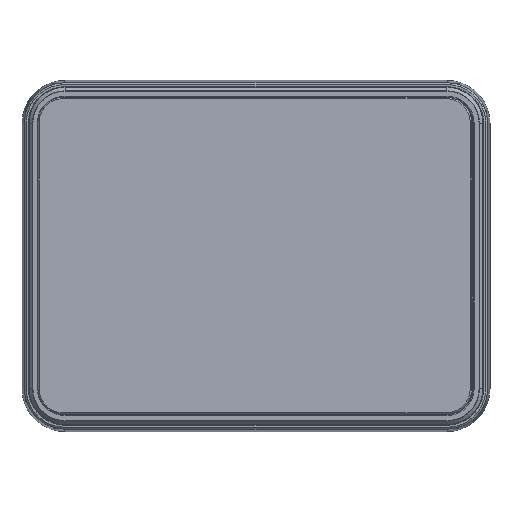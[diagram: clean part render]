
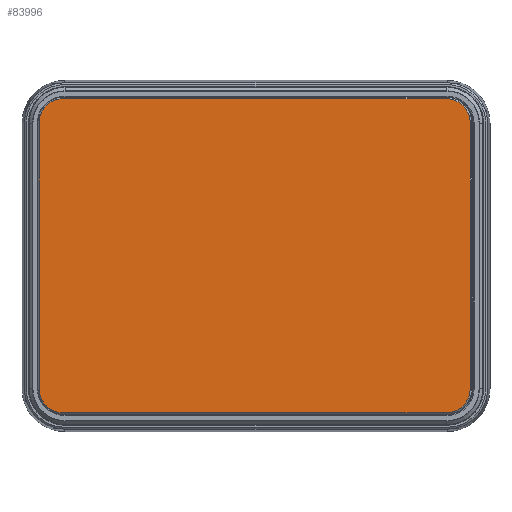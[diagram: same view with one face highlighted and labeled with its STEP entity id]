
A CAD part, top view. The second image highlights one B-rep face of the part: STEP entity #83996.
In plain terms, the highlighted planar face has unit normal (0, 0, 1).
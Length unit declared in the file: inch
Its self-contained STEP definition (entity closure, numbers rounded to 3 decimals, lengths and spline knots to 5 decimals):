
#714 = DIRECTION ( 'NONE',  ( -1., 0., 0. ) ) ;
#2219 = CARTESIAN_POINT ( 'NONE',  ( -0.01698, 1.94201, 0.17022 ) ) ;
#3299 = DIRECTION ( 'NONE',  ( 0., 0., -1. ) ) ;
#4953 = CARTESIAN_POINT ( 'NONE',  ( 2.64583, 1.64398, 0.17022 ) ) ;
#5658 = ORIENTED_EDGE ( 'NONE', *, *, #103202, .T. ) ;
#5835 = CARTESIAN_POINT ( 'NONE',  ( 2.34781, -1.93862, 0.17022 ) ) ;
#6458 = DIRECTION ( 'NONE',  ( -1., 0., 0. ) ) ;
#7677 = DIRECTION ( 'NONE',  ( 0., 1., 0. ) ) ;
#11834 = CARTESIAN_POINT ( 'NONE',  ( -2.6798, -1.6406, 0.17022 ) ) ;
#12237 = PLANE ( 'NONE',  #62947 ) ;
#15623 = AXIS2_PLACEMENT_3D ( 'NONE', #99821, #52540, #6458 ) ;
#16195 = AXIS2_PLACEMENT_3D ( 'NONE', #112110, #37725, #714 ) ;
#20029 = AXIS2_PLACEMENT_3D ( 'NONE', #88285, #25288, #43328 ) ;
#22189 = CARTESIAN_POINT ( 'NONE',  ( -2.38177, 1.94201, 0.17022 ) ) ;
#22730 = EDGE_CURVE ( 'NONE', #34331, #25017, #99405, .T. ) ;
#23067 = VECTOR ( 'NONE', #82457, 39.37008 ) ;
#25017 = VERTEX_POINT ( 'NONE', #5835 ) ;
#25288 = DIRECTION ( 'NONE',  ( 0., 0., 1. ) ) ;
#28070 = DIRECTION ( 'NONE',  ( 1., 0., 0. ) ) ;
#28965 = CIRCLE ( 'NONE', #15623, 0.29802 ) ;
#30662 = DIRECTION ( 'NONE',  ( -1., 0., 0. ) ) ;
#33649 = LINE ( 'NONE', #69624, #93435 ) ;
#34331 = VERTEX_POINT ( 'NONE', #75192 ) ;
#35559 = EDGE_CURVE ( 'NONE', #82886, #59627, #84037, .T. ) ;
#36480 = CARTESIAN_POINT ( 'NONE',  ( -0.01698, -1.93862, 0.17022 ) ) ;
#37725 = DIRECTION ( 'NONE',  ( 0., 0., 1. ) ) ;
#42992 = ORIENTED_EDGE ( 'NONE', *, *, #105062, .T. ) ;
#43328 = DIRECTION ( 'NONE',  ( -1., 0., 0. ) ) ;
#44098 = CARTESIAN_POINT ( 'NONE',  ( 2.64583, -1.6406, 0.17022 ) ) ;
#46248 = ORIENTED_EDGE ( 'NONE', *, *, #65835, .T. ) ;
#52540 = DIRECTION ( 'NONE',  ( 0., 0., 1. ) ) ;
#57947 = VERTEX_POINT ( 'NONE', #22189 ) ;
#58931 = FACE_OUTER_BOUND ( 'NONE', #83499, .T. ) ;
#59515 = ORIENTED_EDGE ( 'NONE', *, *, #69124, .T. ) ;
#59627 = VERTEX_POINT ( 'NONE', #99740 ) ;
#60154 = CIRCLE ( 'NONE', #20029, 0.29802 ) ;
#62947 = AXIS2_PLACEMENT_3D ( 'NONE', #114145, #3299, #112986 ) ;
#63132 = EDGE_CURVE ( 'NONE', #76428, #83321, #33649, .T. ) ;
#64003 = CIRCLE ( 'NONE', #16195, 0.29802 ) ;
#65835 = EDGE_CURVE ( 'NONE', #83321, #34331, #28965, .T. ) ;
#65885 = ORIENTED_EDGE ( 'NONE', *, *, #22730, .T. ) ;
#66598 = DIRECTION ( 'NONE',  ( 0., 0., 1. ) ) ;
#68415 = DIRECTION ( 'NONE',  ( 0., -1., 0. ) ) ;
#69124 = EDGE_CURVE ( 'NONE', #25017, #103553, #64003, .T. ) ;
#69624 = CARTESIAN_POINT ( 'NONE',  ( -2.6798, 0.00169, 0.17022 ) ) ;
#72452 = CARTESIAN_POINT ( 'NONE',  ( -2.6798, 1.64398, 0.17022 ) ) ;
#75192 = CARTESIAN_POINT ( 'NONE',  ( -2.38177, -1.93862, 0.17022 ) ) ;
#76428 = VERTEX_POINT ( 'NONE', #72452 ) ;
#80226 = AXIS2_PLACEMENT_3D ( 'NONE', #95325, #66598, #30662 ) ;
#82457 = DIRECTION ( 'NONE',  ( -1., 0., 0. ) ) ;
#82886 = VERTEX_POINT ( 'NONE', #4953 ) ;
#83068 = LINE ( 'NONE', #2219, #23067 ) ;
#83321 = VERTEX_POINT ( 'NONE', #11834 ) ;
#83499 = EDGE_LOOP ( 'NONE', ( #65885, #59515, #5658, #98712, #118146, #42992, #103062, #46248 ) ) ;
#83996 = ADVANCED_FACE ( 'NONE', ( #58931 ), #12237, .F. ) ;
#84037 = CIRCLE ( 'NONE', #80226, 0.29802 ) ;
#88285 = CARTESIAN_POINT ( 'NONE',  ( -2.38177, 1.64398, 0.17022 ) ) ;
#90199 = VECTOR ( 'NONE', #7677, 39.37008 ) ;
#93435 = VECTOR ( 'NONE', #68415, 39.37008 ) ;
#93723 = EDGE_CURVE ( 'NONE', #59627, #57947, #83068, .T. ) ;
#95325 = CARTESIAN_POINT ( 'NONE',  ( 2.34781, 1.64398, 0.17022 ) ) ;
#98712 = ORIENTED_EDGE ( 'NONE', *, *, #35559, .T. ) ;
#98955 = VECTOR ( 'NONE', #28070, 39.37008 ) ;
#99405 = LINE ( 'NONE', #36480, #98955 ) ;
#99740 = CARTESIAN_POINT ( 'NONE',  ( 2.34781, 1.94201, 0.17022 ) ) ;
#99821 = CARTESIAN_POINT ( 'NONE',  ( -2.38177, -1.6406, 0.17022 ) ) ;
#103062 = ORIENTED_EDGE ( 'NONE', *, *, #63132, .T. ) ;
#103202 = EDGE_CURVE ( 'NONE', #103553, #82886, #117322, .T. ) ;
#103553 = VERTEX_POINT ( 'NONE', #44098 ) ;
#105062 = EDGE_CURVE ( 'NONE', #57947, #76428, #60154, .T. ) ;
#112110 = CARTESIAN_POINT ( 'NONE',  ( 2.34781, -1.6406, 0.17022 ) ) ;
#112986 = DIRECTION ( 'NONE',  ( -1., 0., 0. ) ) ;
#114145 = CARTESIAN_POINT ( 'NONE',  ( -0.01698, 0.00169, 0.17022 ) ) ;
#116154 = CARTESIAN_POINT ( 'NONE',  ( 2.64583, 0.00169, 0.17022 ) ) ;
#117322 = LINE ( 'NONE', #116154, #90199 ) ;
#118146 = ORIENTED_EDGE ( 'NONE', *, *, #93723, .T. ) ;
